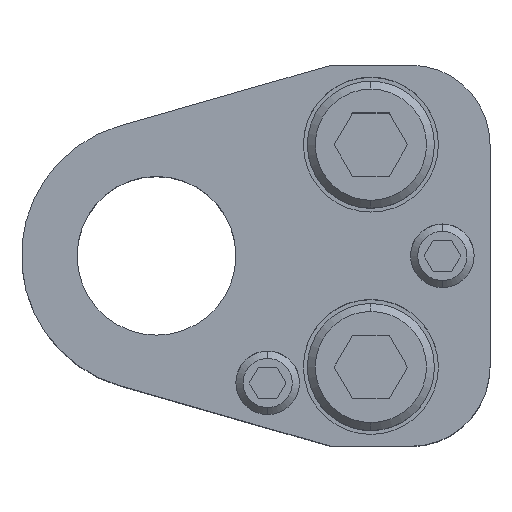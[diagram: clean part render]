
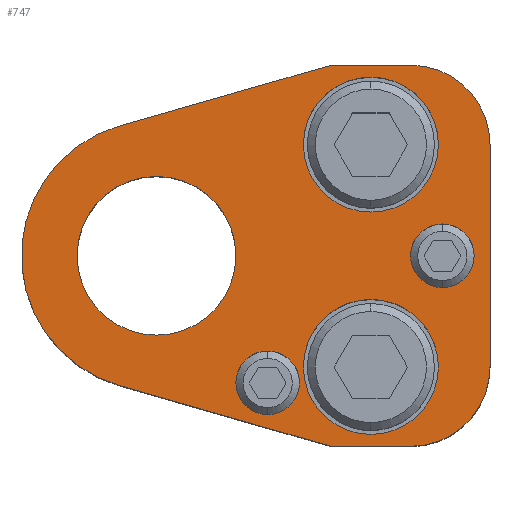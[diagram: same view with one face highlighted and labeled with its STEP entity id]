
A CAD part, top view. The second image highlights one B-rep face of the part: STEP entity #747.
In plain terms, the highlighted planar face has unit normal (0, 0, 1).
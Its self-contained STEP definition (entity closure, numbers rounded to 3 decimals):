
#429=LINE('',#3637,#593);
#433=LINE('',#3646,#597);
#437=LINE('',#3658,#601);
#441=LINE('',#3670,#605);
#444=LINE('',#3676,#608);
#593=VECTOR('',#2930,1.);
#597=VECTOR('',#2936,1.);
#601=VECTOR('',#2948,1.);
#605=VECTOR('',#2960,1.);
#608=VECTOR('',#2965,1.);
#747=ADVANCED_FACE('',(#853,#854,#855,#856,#857,#858),#823,.T.);
#823=PLANE('',#2443);
#853=FACE_BOUND('',#997,.T.);
#854=FACE_BOUND('',#998,.T.);
#855=FACE_BOUND('',#999,.T.);
#856=FACE_BOUND('',#1000,.T.);
#857=FACE_BOUND('',#1001,.T.);
#858=FACE_BOUND('',#1002,.T.);
#997=EDGE_LOOP('',(#1511,#1512,#1513,#1514,#1515,#1516,#1517,#1518));
#998=EDGE_LOOP('',(#1519,#1520));
#999=EDGE_LOOP('',(#1521,#1522));
#1000=EDGE_LOOP('',(#1523,#1524));
#1001=EDGE_LOOP('',(#1525,#1526));
#1002=EDGE_LOOP('',(#1527,#1528));
#1511=ORIENTED_EDGE('',*,*,#2004,.T.);
#1512=ORIENTED_EDGE('',*,*,#2008,.T.);
#1513=ORIENTED_EDGE('',*,*,#2011,.T.);
#1514=ORIENTED_EDGE('',*,*,#2014,.T.);
#1515=ORIENTED_EDGE('',*,*,#2017,.T.);
#1516=ORIENTED_EDGE('',*,*,#2020,.T.);
#1517=ORIENTED_EDGE('',*,*,#2023,.T.);
#1518=ORIENTED_EDGE('',*,*,#2026,.T.);
#1519=ORIENTED_EDGE('',*,*,#2061,.F.);
#1520=ORIENTED_EDGE('',*,*,#2062,.F.);
#1521=ORIENTED_EDGE('',*,*,#2063,.F.);
#1522=ORIENTED_EDGE('',*,*,#2064,.F.);
#1523=ORIENTED_EDGE('',*,*,#2051,.F.);
#1524=ORIENTED_EDGE('',*,*,#2047,.F.);
#1525=ORIENTED_EDGE('',*,*,#2045,.F.);
#1526=ORIENTED_EDGE('',*,*,#2041,.F.);
#1527=ORIENTED_EDGE('',*,*,#2065,.T.);
#1528=ORIENTED_EDGE('',*,*,#2066,.T.);
#1744=VERTEX_POINT('',#3636);
#1745=VERTEX_POINT('',#3638);
#1748=VERTEX_POINT('',#3645);
#1750=VERTEX_POINT('',#3651);
#1752=VERTEX_POINT('',#3657);
#1754=VERTEX_POINT('',#3663);
#1756=VERTEX_POINT('',#3669);
#1758=VERTEX_POINT('',#3675);
#1771=VERTEX_POINT('',#3712);
#1772=VERTEX_POINT('',#3713);
#1775=VERTEX_POINT('',#3724);
#1776=VERTEX_POINT('',#3725);
#1783=VERTEX_POINT('',#3752);
#1784=VERTEX_POINT('',#3753);
#1785=VERTEX_POINT('',#3756);
#1786=VERTEX_POINT('',#3757);
#1787=VERTEX_POINT('',#3760);
#1788=VERTEX_POINT('',#3761);
#2004=EDGE_CURVE('',#1745,#1744,#429,.T.);
#2008=EDGE_CURVE('',#1744,#1748,#433,.T.);
#2011=EDGE_CURVE('',#1748,#1750,#2171,.T.);
#2014=EDGE_CURVE('',#1750,#1752,#437,.T.);
#2017=EDGE_CURVE('',#1752,#1754,#2173,.T.);
#2020=EDGE_CURVE('',#1754,#1756,#441,.T.);
#2023=EDGE_CURVE('',#1756,#1758,#444,.T.);
#2026=EDGE_CURVE('',#1758,#1745,#2176,.T.);
#2041=EDGE_CURVE('',#1771,#1772,#2189,.T.);
#2045=EDGE_CURVE('',#1772,#1771,#2191,.T.);
#2047=EDGE_CURVE('',#1775,#1776,#2193,.T.);
#2051=EDGE_CURVE('',#1776,#1775,#2195,.T.);
#2061=EDGE_CURVE('',#1783,#1784,#2201,.T.);
#2062=EDGE_CURVE('',#1784,#1783,#2202,.T.);
#2063=EDGE_CURVE('',#1785,#1786,#2203,.T.);
#2064=EDGE_CURVE('',#1786,#1785,#2204,.T.);
#2065=EDGE_CURVE('',#1787,#1788,#2205,.T.);
#2066=EDGE_CURVE('',#1788,#1787,#2206,.T.);
#2171=CIRCLE('',#2390,10.);
#2173=CIRCLE('',#2394,10.);
#2176=CIRCLE('',#2400,17.);
#2189=CIRCLE('',#2417,4.);
#2191=CIRCLE('',#2420,4.);
#2193=CIRCLE('',#2423,4.);
#2195=CIRCLE('',#2426,4.);
#2201=CIRCLE('',#2437,8.5);
#2202=CIRCLE('',#2438,8.5);
#2203=CIRCLE('',#2439,8.5);
#2204=CIRCLE('',#2440,8.5);
#2205=CIRCLE('',#2441,10.);
#2206=CIRCLE('',#2442,10.);
#2390=AXIS2_PLACEMENT_3D('',#3652,#2941,#2942);
#2394=AXIS2_PLACEMENT_3D('',#3664,#2953,#2954);
#2400=AXIS2_PLACEMENT_3D('',#3680,#2971,#2972);
#2417=AXIS2_PLACEMENT_3D('',#3711,#3007,#3008);
#2420=AXIS2_PLACEMENT_3D('',#3720,#3015,#3016);
#2423=AXIS2_PLACEMENT_3D('',#3723,#3021,#3022);
#2426=AXIS2_PLACEMENT_3D('',#3732,#3029,#3030);
#2437=AXIS2_PLACEMENT_3D('',#3751,#3055,#3056);
#2438=AXIS2_PLACEMENT_3D('',#3754,#3057,#3058);
#2439=AXIS2_PLACEMENT_3D('',#3755,#3059,#3060);
#2440=AXIS2_PLACEMENT_3D('',#3758,#3061,#3062);
#2441=AXIS2_PLACEMENT_3D('',#3759,#3063,#3064);
#2442=AXIS2_PLACEMENT_3D('',#3762,#3065,#3066);
#2443=AXIS2_PLACEMENT_3D('',#3763,#3067,#3068);
#2930=DIRECTION('',(0.961,-0.276,0.));
#2936=DIRECTION('',(1.,0.,0.));
#2941=DIRECTION('',(0.,0.,1.));
#2942=DIRECTION('',(-0.707,0.707,0.));
#2948=DIRECTION('',(0.,1.,0.));
#2953=DIRECTION('',(0.,0.,1.));
#2954=DIRECTION('',(-0.707,-0.707,0.));
#2960=DIRECTION('',(-1.,0.,0.));
#2965=DIRECTION('',(-0.961,-0.276,0.));
#2971=DIRECTION('',(0.,0.,1.));
#2972=DIRECTION('',(1.,0.,0.));
#3007=DIRECTION('',(0.,0.,1.));
#3008=DIRECTION('',(-1.,0.,0.));
#3015=DIRECTION('',(0.,0.,1.));
#3016=DIRECTION('',(1.,0.,0.));
#3021=DIRECTION('',(0.,0.,1.));
#3022=DIRECTION('',(-1.,0.,0.));
#3029=DIRECTION('',(0.,0.,1.));
#3030=DIRECTION('',(1.,0.,0.));
#3055=DIRECTION('',(0.,0.,1.));
#3056=DIRECTION('',(1.,0.,0.));
#3057=DIRECTION('',(0.,0.,1.));
#3058=DIRECTION('',(-1.,0.,0.));
#3059=DIRECTION('',(0.,0.,1.));
#3060=DIRECTION('',(1.,0.,0.));
#3061=DIRECTION('',(0.,0.,1.));
#3062=DIRECTION('',(-1.,0.,0.));
#3063=DIRECTION('',(0.,0.,-1.));
#3064=DIRECTION('',(-1.,0.,0.));
#3065=DIRECTION('',(0.,0.,-1.));
#3066=DIRECTION('',(1.,0.,0.));
#3067=DIRECTION('',(0.,0.,1.));
#3068=DIRECTION('',(0.961,-0.276,0.));
#3636=CARTESIAN_POINT('',(22.,-24.,35.));
#3637=CARTESIAN_POINT('',(22.,-24.,35.));
#3638=CARTESIAN_POINT('',(-4.69,-16.34,35.));
#3645=CARTESIAN_POINT('',(32.,-24.,35.));
#3646=CARTESIAN_POINT('',(22.,-24.,35.));
#3651=CARTESIAN_POINT('',(42.,-14.,35.));
#3652=CARTESIAN_POINT('',(32.,-14.,35.));
#3657=CARTESIAN_POINT('',(42.,14.,35.));
#3658=CARTESIAN_POINT('',(42.,14.,35.));
#3663=CARTESIAN_POINT('',(32.,24.,35.));
#3664=CARTESIAN_POINT('',(32.,14.,35.));
#3669=CARTESIAN_POINT('',(22.,24.,35.));
#3670=CARTESIAN_POINT('',(22.,24.,35.));
#3675=CARTESIAN_POINT('',(-4.69,16.34,35.));
#3676=CARTESIAN_POINT('',(22.,24.,35.));
#3680=CARTESIAN_POINT('',(0.,0.,35.));
#3711=CARTESIAN_POINT('',(14.,-16.,35.));
#3712=CARTESIAN_POINT('',(14.,-20.,35.));
#3713=CARTESIAN_POINT('',(14.,-12.,35.));
#3720=CARTESIAN_POINT('',(14.,-16.,35.));
#3723=CARTESIAN_POINT('',(36.,0.,35.));
#3724=CARTESIAN_POINT('',(36.,-4.,35.));
#3725=CARTESIAN_POINT('',(36.,4.,35.));
#3732=CARTESIAN_POINT('',(36.,0.,35.));
#3751=CARTESIAN_POINT('',(27.,14.,35.));
#3752=CARTESIAN_POINT('',(27.,22.5,35.));
#3753=CARTESIAN_POINT('',(27.,5.5,35.));
#3754=CARTESIAN_POINT('',(27.,14.,35.));
#3755=CARTESIAN_POINT('',(27.,-14.,35.));
#3756=CARTESIAN_POINT('',(27.,-5.5,35.));
#3757=CARTESIAN_POINT('',(27.,-22.5,35.));
#3758=CARTESIAN_POINT('',(27.,-14.,35.));
#3759=CARTESIAN_POINT('',(0.,0.,35.));
#3760=CARTESIAN_POINT('',(0.,10.,35.));
#3761=CARTESIAN_POINT('',(0.,-10.,35.));
#3762=CARTESIAN_POINT('',(0.,0.,35.));
#3763=CARTESIAN_POINT('',(-4.69,-16.34,35.));
